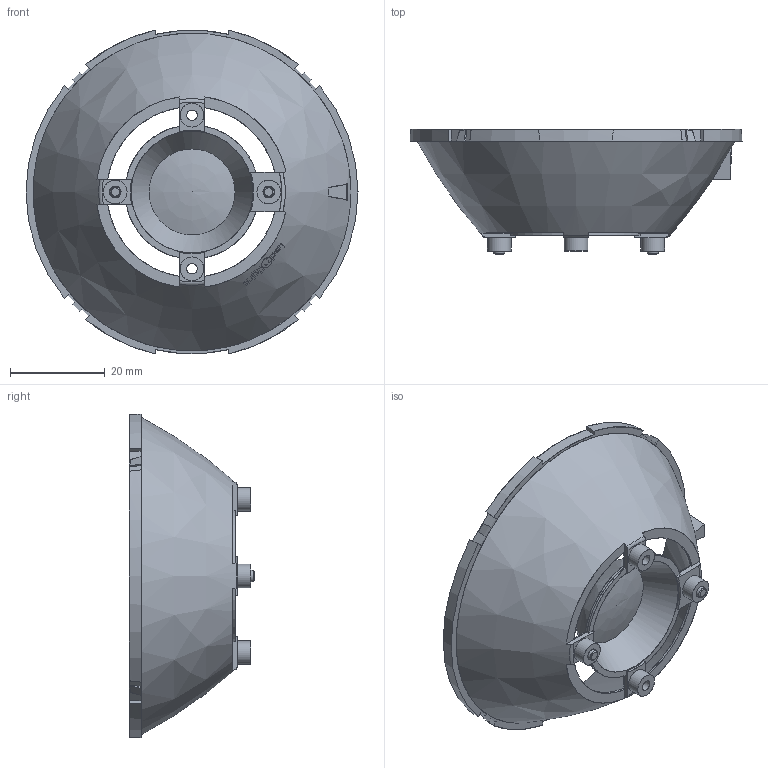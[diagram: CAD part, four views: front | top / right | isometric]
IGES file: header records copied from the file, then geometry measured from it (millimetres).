
Start section: Missler Software BP 521, 31674 Labege Cedex, France Tel   : +33 (0)5 61 00 03 00 Fax   : +33 (0)5 61 00 03 03 Email : sup.topsolid@topsolid.com
Global section: file name: C:\TEMP\LLR05N11AA0 for mechanical use only.igs; native system: TopSolid v609200 Missler Software; preprocessor: IGES preprocessor v100000; author: LAURET JP; date: 120412.101924; units: millimetre
Bounding box: 69.91 x 26.42 x 68.22 mm (x, y, z)
Surface area: 12173.4 mm2 (no closed solid volume)
Topology: 0 solids, 0 shells, 319 faces, 2282 edges, 2277 vertices
Faces by surface type: bspline 319
